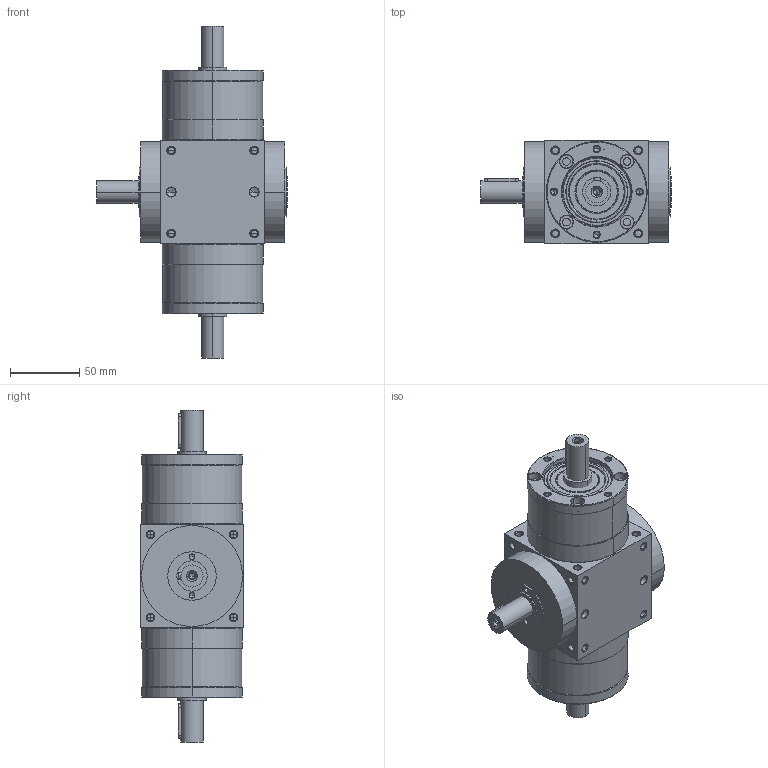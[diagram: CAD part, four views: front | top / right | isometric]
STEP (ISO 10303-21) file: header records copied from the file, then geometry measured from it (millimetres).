
FILE_DESCRIPTION((''),'2;1');
FILE_NAME('AT075LM-1_ASM','2010-02-09T',('d00080'),(''),'PRO/ENGINEER BY PARAMETRIC TECHNOLOGY CORPORATION, 2008170','PRO/ENGINEER BY PARAMETRIC TECHNOLOGY CORPORATION, 2008170','');
FILE_SCHEMA(('CONFIG_CONTROL_DESIGN'));
Length unit declared in the file: millimetre
Products named in the file (4): ATLM-HOUSING-1-3; P1801300001; 22400071003; AT075LM-1_ASM
Assembly tree (5 placements, depth 2):
  AT075LM-1_ASM
    ATLM-HOUSING-1-3
    P1801300001  x2
    22400071003  x2
Bounding box: 138 x 75 x 240 mm (x, y, z)
Volume: 830852.5 mm3; surface area: 136739.1 mm2
Topology: 7 solids, 42 shells, 771 faces, 1897 edges, 1125 vertices
Faces by surface type: cylinder 338, cone 256, plane 103, torus 66, bspline 8
Entity records: 17709 total; most frequent: CARTESIAN_POINT 3931, DIRECTION 3071, ORIENTED_EDGE 2638, EDGE_CURVE 1381, AXIS2_PLACEMENT_3D 1287, VERTEX_POINT 866, CIRCLE 700, EDGE_LOOP 677
